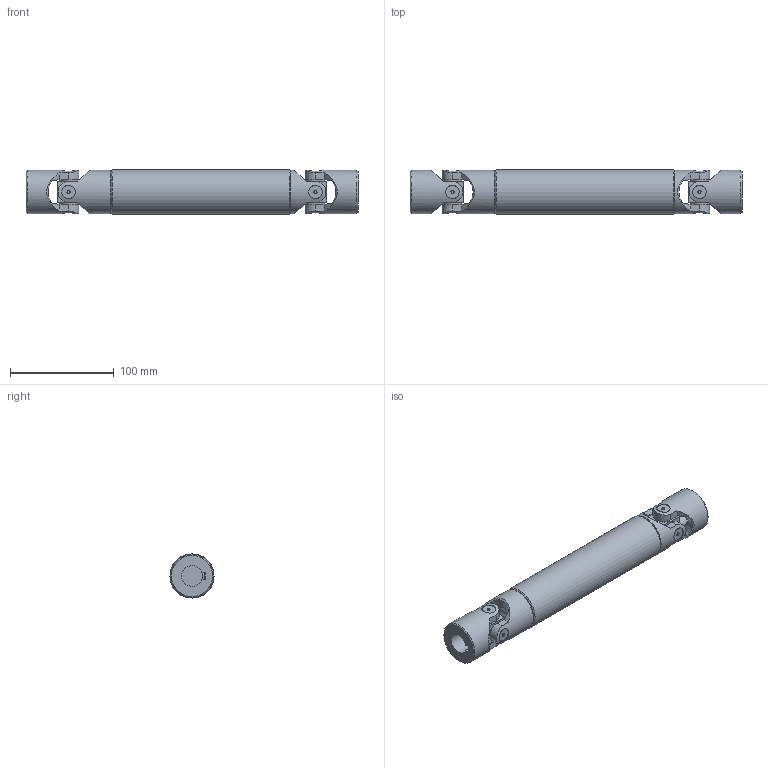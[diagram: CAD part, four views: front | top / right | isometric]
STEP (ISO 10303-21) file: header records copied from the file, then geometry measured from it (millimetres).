
FILE_DESCRIPTION(/* description */ (''),/* implementation_level */ '2;1');
FILE_NAME(/* name */ '\\SRV2016\Societa\Stefano\Disegni 3D\00Catalogo 3D\03Trasmissioni standard GA\3GA20\3GA20_SG0A2020.stp',/* time_stamp */ '2022-02-25T13:24:01+01:00',/* author */ ('acquisti'),/* organization */ (''),/* preprocessor_version */ 'ST-DEVELOPER v15.6',/* originating_system */ 'Autodesk Inventor 2015',/* authorisation */ '');
FILE_SCHEMA (('AUTOMOTIVE_DESIGN { 1 0 10303 214 3 1 1 }'));
Length unit declared in the file: millimetre
Products named in the file (5): 3GA20 LAI; 3GA20 LCI; 3G SFE; 3G MOC; 3GA20_SG0A2020
Assembly tree (6 placements, depth 2):
  3GA20_SG0A2020
    3GA20 LAI
    3GA20 LCI
    3G SFE  x2
    3G MOC  x2
Bounding box: 320 x 42.5 x 42.5 mm (x, y, z)
Volume: 318637.5 mm3; surface area: 95546.1 mm2
Topology: 6 solids, 6 shells, 228 faces, 561 edges, 369 vertices
Faces by surface type: plane 106, cylinder 93, cone 25, torus 4
Full cylindrical faces by diameter (mm): 3 x8, 18 x8, 20 x1, 22 x2, 35 x1, 42 x4, 42.5 x1
Entity records: 5785 total; most frequent: CARTESIAN_POINT 1675, DIRECTION 823, ORIENTED_EDGE 820, EDGE_CURVE 410, AXIS2_PLACEMENT_3D 335, VERTEX_POINT 286, EDGE_LOOP 224, FACE_OUTER_BOUND 176
